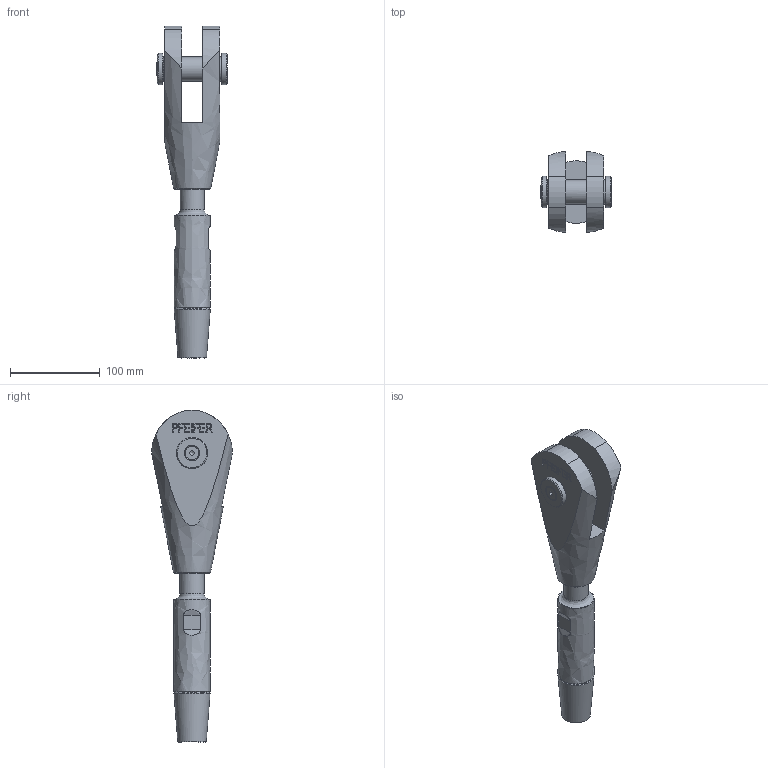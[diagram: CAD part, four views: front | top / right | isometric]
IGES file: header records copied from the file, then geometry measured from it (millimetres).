
Global section: file name: 520-027-GAK-ADA; native system: Autodesk Inventor 2016; preprocessor: unknown; author: Administrator; date: 20200703.130632; units: centimetre
Bounding box: 78.51 x 90.08 x 370.5 mm (x, y, z)
Volume: 663708.9 mm3; surface area: 93840.1 mm2
Topology: 2 solids, 3 shells, 198 faces, 522 edges, 351 vertices
Faces by surface type: bspline 198
